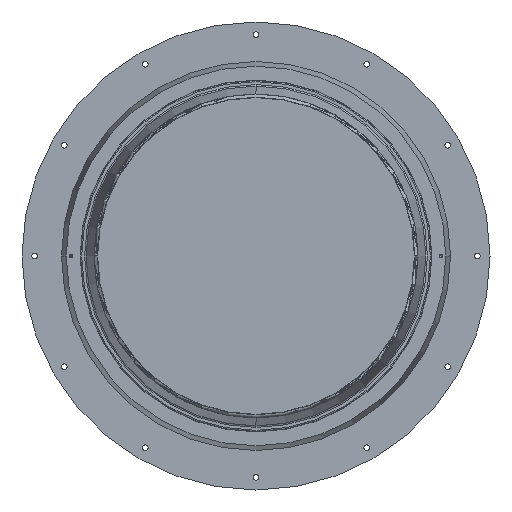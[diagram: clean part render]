
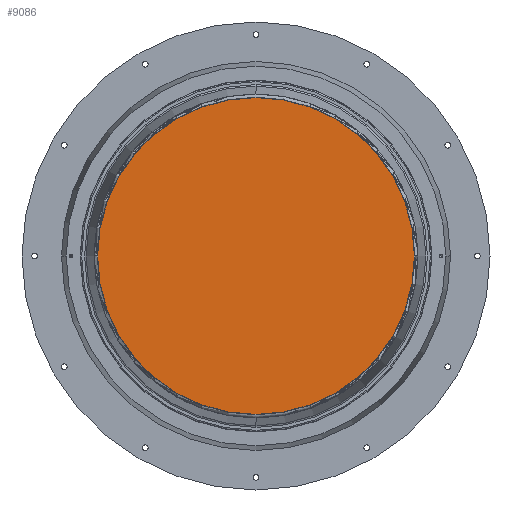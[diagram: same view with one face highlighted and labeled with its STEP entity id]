
A CAD part, front view. The second image highlights one B-rep face of the part: STEP entity #9086.
In plain terms, the highlighted planar face has unit normal (0, -1, 0).
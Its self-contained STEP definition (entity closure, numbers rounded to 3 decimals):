
#9086 = ADVANCED_FACE ( 'NONE', ( #88888 ), #223149, .F. ) ;
#42370 = EDGE_CURVE ( 'NONE', #182383, #292030, #67545, .T. ) ;
#47813 = DIRECTION ( 'NONE',  ( 0., -1., 0. ) ) ;
#65617 = CARTESIAN_POINT ( 'NONE',  ( -552.248, -1573.988, 500000. ) ) ;
#67545 = CIRCLE ( 'NONE', #128448, 500.958 ) ;
#88385 = DIRECTION ( 'NONE',  ( -1., 0., 0. ) ) ;
#88888 = FACE_OUTER_BOUND ( 'NONE', #241810, .T. ) ;
#103245 = CARTESIAN_POINT ( 'NONE',  ( 450.752, -1573.988, 0. ) ) ;
#104087 = DIRECTION ( 'NONE',  ( 0., -1., 0. ) ) ;
#127995 = ORIENTED_EDGE ( 'NONE', *, *, #172584, .T. ) ;
#128448 = AXIS2_PLACEMENT_3D ( 'NONE', #239817, #104087, #262553 ) ;
#132753 = CIRCLE ( 'NONE', #270474, 500.958 ) ;
#167221 = AXIS2_PLACEMENT_3D ( 'NONE', #65617, #224152, #88385 ) ;
#172584 = EDGE_CURVE ( 'NONE', #292030, #182383, #132753, .T. ) ;
#182383 = VERTEX_POINT ( 'NONE', #103245 ) ;
#183659 = CARTESIAN_POINT ( 'NONE',  ( -50.205, -1573.988, 0. ) ) ;
#185789 = CARTESIAN_POINT ( 'NONE',  ( -551.163, -1573.988, 0. ) ) ;
#206432 = DIRECTION ( 'NONE',  ( 1., 0., 0. ) ) ;
#223149 = PLANE ( 'NONE',  #167221 ) ;
#224152 = DIRECTION ( 'NONE',  ( 0., 1., 0. ) ) ;
#239817 = CARTESIAN_POINT ( 'NONE',  ( -50.205, -1573.988, 0. ) ) ;
#241810 = EDGE_LOOP ( 'NONE', ( #269819, #127995 ) ) ;
#262553 = DIRECTION ( 'NONE',  ( 1., 0., 0. ) ) ;
#269819 = ORIENTED_EDGE ( 'NONE', *, *, #42370, .T. ) ;
#270474 = AXIS2_PLACEMENT_3D ( 'NONE', #183659, #47813, #206432 ) ;
#292030 = VERTEX_POINT ( 'NONE', #185789 ) ;
